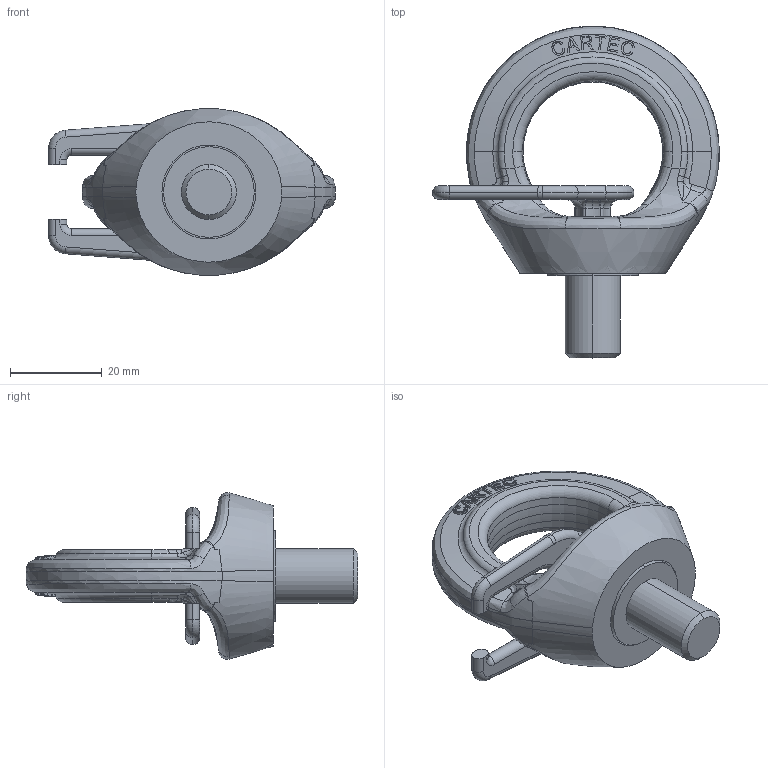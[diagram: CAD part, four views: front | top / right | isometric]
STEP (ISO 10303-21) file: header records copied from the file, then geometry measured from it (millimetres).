
FILE_DESCRIPTION(('STEP AP214'),'1');
FILE_NAME('c807ht12.stp','2017-03-27T13:23:03',('TraceParts'),('TraceParts S.A.'),'Spatial InterOp 3D',' ',' ');
FILE_SCHEMA(('automotive_design'));
Length unit declared in the file: millimetre
Products named in the file (3): c807ht12_1; c807ht12_2; c807ht12_3
Bounding box: 62.63 x 72.46 x 36.32 mm (x, y, z)
Volume: 27928.4 mm3; surface area: 12005.1 mm2
Topology: 3 solids, 3 shells, 403 faces, 1053 edges, 664 vertices
Faces by surface type: bspline 139, plane 121, torus 68, cylinder 55, cone 20
Entity records: 24524 total; most frequent: CARTESIAN_POINT 12088, ORIENTED_EDGE 2088, DIRECTION 1694, EDGE_CURVE 1044, AXIS2_PLACEMENT_3D 667, VERTEX_POINT 664, EDGE_LOOP 424, STYLED_ITEM 406
